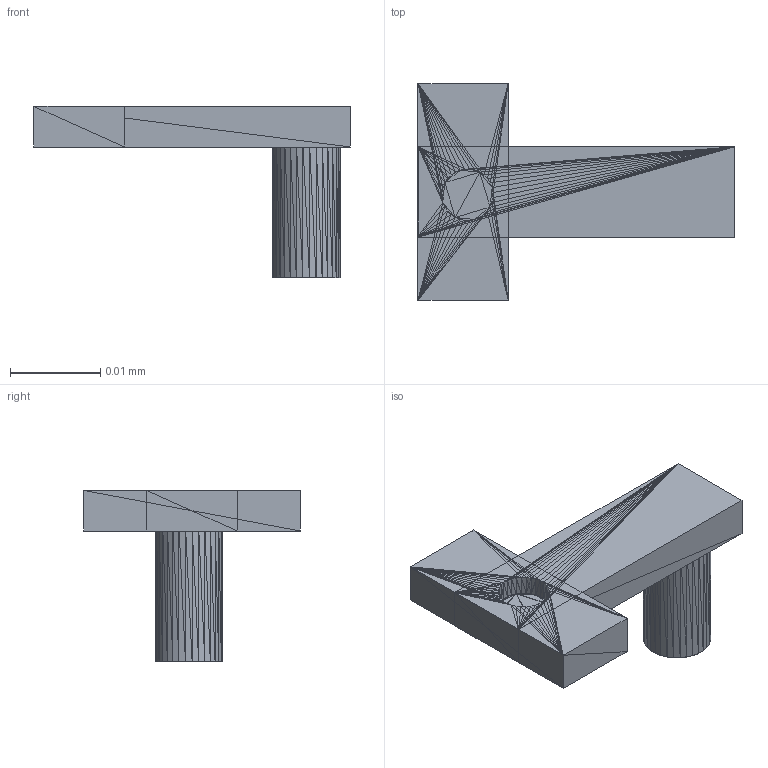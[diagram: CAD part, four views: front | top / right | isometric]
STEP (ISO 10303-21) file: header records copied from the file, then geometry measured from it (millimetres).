
FILE_DESCRIPTION((' Model'),'2;1');
FILE_NAME(' Shape Model','2026-05-29T17:25:52',(''),( ''),' ','','Unknown');
FILE_SCHEMA(('AUTOMOTIVE_DESIGN { 1 0 10303 214 1 1 1 1 }'));
Length unit declared in the file: millimetre
Products named in the file (4):  STEP translator 7.5 1;  STEP translator 7.5 1.1;  STEP translator 7.5 1.2;  STEP translator 7.5 1.3
Assembly tree (3 placements, depth 2):
   STEP translator 7.5 1
     STEP translator 7.5 1.1
     STEP translator 7.5 1.2
     STEP translator 7.5 1.3
Bounding box: 0.04 x 0.02 x 0.02 mm (x, y, z)
Surface area: 0 mm2 (no closed solid volume)
Topology: 0 solids, 3 shells, 484 faces, 726 edges, 246 vertices
Faces by surface type: plane 484
Entity records: 18234 total; most frequent: CARTESIAN_POINT 3638, DIRECTION 2428, ORIENTED_EDGE 1452, LINE 1452, VECTOR 1452, PCURVE 1452, DEFINITIONAL_REPRESENTATION 1452, EDGE_CURVE 726
